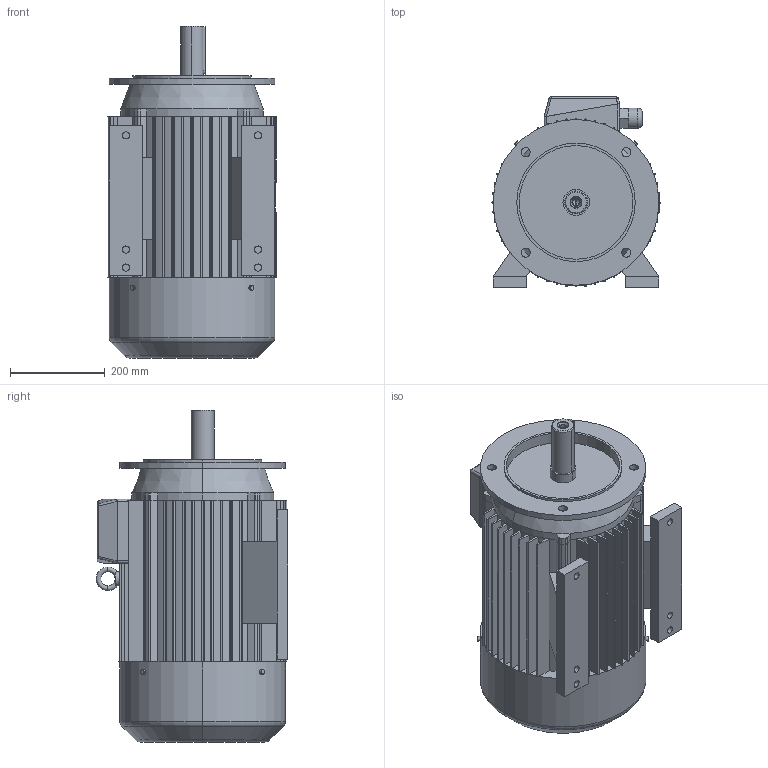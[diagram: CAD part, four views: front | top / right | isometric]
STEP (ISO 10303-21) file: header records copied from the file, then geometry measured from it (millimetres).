
FILE_DESCRIPTION (( 'STEP AP203' ), '1' );
FILE_NAME ('2SIEL180M2,4,L4,6.STEP', '2012-10-29T08:24:59', ( 'INDUKTA' ), ( 'CANTONI MOTOR' ), 'SwSTEP 2.0', 'SolidWorks 2003064', '' );
FILE_SCHEMA (( 'CONFIG_CONTROL_DESIGN' ));
Length unit declared in the file: millimetre
Products named in the file (1): 2SIEL180M2,4,L4,6
Bounding box: 354.99 x 405 x 701 mm (x, y, z)
Volume: 50639961 mm3; surface area: 2178485.9 mm2
Topology: 14 solids, 14 shells, 430 faces, 1125 edges, 721 vertices
Faces by surface type: plane 201, cylinder 195, torus 16, cone 14, sphere 4
Entity records: 13550 total; most frequent: CARTESIAN_POINT 2582, DIRECTION 2380, ORIENTED_EDGE 2238, EDGE_CURVE 1119, AXIS2_PLACEMENT_3D 855, VERTEX_POINT 721, LINE 670, VECTOR 670
